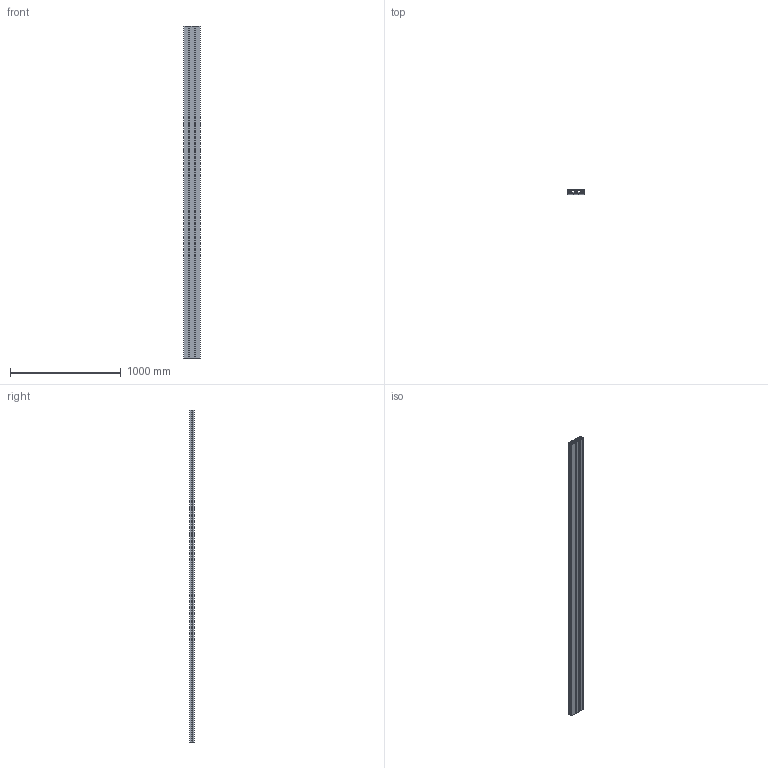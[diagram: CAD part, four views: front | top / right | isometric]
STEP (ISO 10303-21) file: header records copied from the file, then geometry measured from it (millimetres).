
FILE_DESCRIPTION (( 'STEP AP203' ), '1' );
FILE_NAME ('Rechteckprofil RE 40x150 Wechselnut - ArtNr 201035 3000.STEP', '2013-02-07T09:13:13', ( 'test' ), ( 'Microsoft' ), 'SwSTEP 2.0', 'SolidWorks 2012', '' );
FILE_SCHEMA (( 'CONFIG_CONTROL_DESIGN' ));
Length unit declared in the file: millimetre
Products named in the file (1): Rechteckprofil RE 40x150 Wechselnut - ArtNr 201035 3000
Bounding box: 150 x 40 x 3000 mm (x, y, z)
Volume: 5323831.3 mm3; surface area: 4010256.3 mm2
Topology: 1 solids, 1 shells, 246 faces, 732 edges, 488 vertices
Faces by surface type: plane 156, cylinder 90
Entity records: 8361 total; most frequent: CARTESIAN_POINT 1467, ORIENTED_EDGE 1464, DIRECTION 1406, EDGE_CURVE 732, VECTOR 552, LINE 552, VERTEX_POINT 488, AXIS2_PLACEMENT_3D 427
